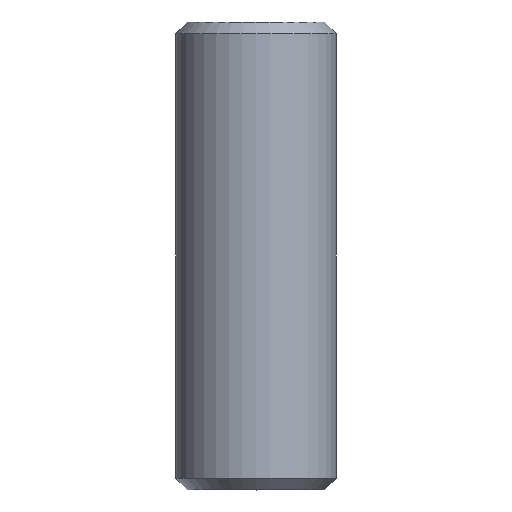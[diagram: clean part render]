
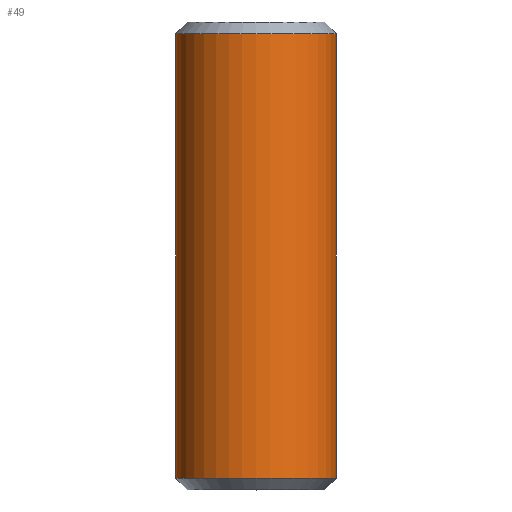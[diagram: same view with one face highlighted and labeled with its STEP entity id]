
A CAD part, top view. The second image highlights one B-rep face of the part: STEP entity #49.
In plain terms, the highlighted cylindrical face has radius 10.3 mm (diameter 20.6 mm), a full revolution.
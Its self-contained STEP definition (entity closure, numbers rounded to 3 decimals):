
#49=ADVANCED_FACE('',(#97,#99),#101,.T.);
#97=FACE_OUTER_BOUND('',#98,.T.);
#98=EDGE_LOOP('',(#138));
#99=FACE_OUTER_BOUND('',#100,.T.);
#100=EDGE_LOOP('',(#139));
#101=CYLINDRICAL_SURFACE('',#102,10.3);
#102=AXIS2_PLACEMENT_3D('',#103,#104,#105);
#103=CARTESIAN_POINT('',(0.,0.,0.));
#104=DIRECTION('',(0.,1.,0.));
#105=DIRECTION('',(-1.,0.,0.));
#138=ORIENTED_EDGE('',*,*,#150,.F.);
#139=ORIENTED_EDGE('',*,*,#152,.T.);
#150=EDGE_CURVE('',#166,#166,#167,.T.);
#152=EDGE_CURVE('',#170,#170,#171,.T.);
#166=VERTEX_POINT('',#204);
#167=CIRCLE('',#205,10.3);
#170=VERTEX_POINT('',#214);
#171=CIRCLE('',#215,10.3);
#204=CARTESIAN_POINT('',(-10.3,58.5,0.));
#205=AXIS2_PLACEMENT_3D('',#206,#207,#208);
#206=CARTESIAN_POINT('',(0.,58.5,0.));
#207=DIRECTION('',(0.,1.,0.));
#208=DIRECTION('',(-1.,0.,0.));
#214=CARTESIAN_POINT('',(-10.3,1.5,0.));
#215=AXIS2_PLACEMENT_3D('',#216,#217,#218);
#216=CARTESIAN_POINT('',(0.,1.5,0.));
#217=DIRECTION('',(0.,1.,0.));
#218=DIRECTION('',(-1.,0.,0.));
